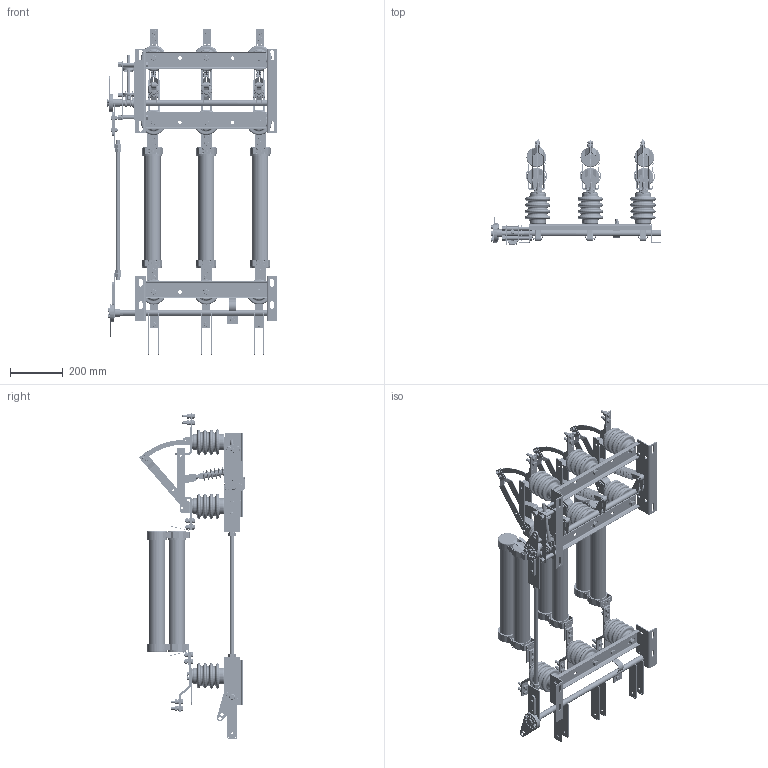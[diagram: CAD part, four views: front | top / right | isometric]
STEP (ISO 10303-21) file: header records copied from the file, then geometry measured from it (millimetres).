
FILE_DESCRIPTION (( 'STEP AP214' ), '1' );
FILE_NAME ('Âûêëþ÷àòåëü íàãðóçêè ÂÍÀ-10400-Ï-ç-ÏÒ1.3-È2-ÓÕË2-ÊÝÀÇ.STEP', '2023-02-01T07:11:42', ( '' ), ( '' ), 'SwSTEP 2.0', 'SolidWorks 2018', '' );
FILE_SCHEMA (( 'AUTOMOTIVE_DESIGN' ));
Length unit declared in the file: millimetre
Products named in the file (1): Âûêëþ÷àòåëü íàãðóçêè ÂÍÀ-10400-Ï-ç-ÏÒ1.3-È2-ÓÕË2-ÊÝÀÇ
Bounding box: 647.2 x 402.34 x 1237.98 mm (x, y, z)
Volume: 17774141.8 mm3; surface area: 2642442.3 mm2
Topology: 1 solids, 59 shells, 6009 faces, 15122 edges, 9529 vertices
Faces by surface type: plane 2968, cylinder 2017, cone 722, torus 296, bspline 6
Full cylindrical faces by diameter (mm): 4.2 x24, 8.2 x2, 8.993 x5, 9 x6, 9.5 x18, 10.8 x26, 12.35 x14, 12.704 x1, 12.915 x1, 12.977 x1, 13.051 x3, 14.508 x4, 15.19 x4, 16 x1, 16.205 x4, 17.1 x3, 20 x12, 22 x3, 62 x3, 70 x7, 75 x6
Entity records: 219812 total; most frequent: CARTESIAN_POINT 75690, DIRECTION 30419, ORIENTED_EDGE 29760, EDGE_CURVE 14880, AXIS2_PLACEMENT_3D 11612, VERTEX_POINT 9442, VECTOR 7195, LINE 7195
